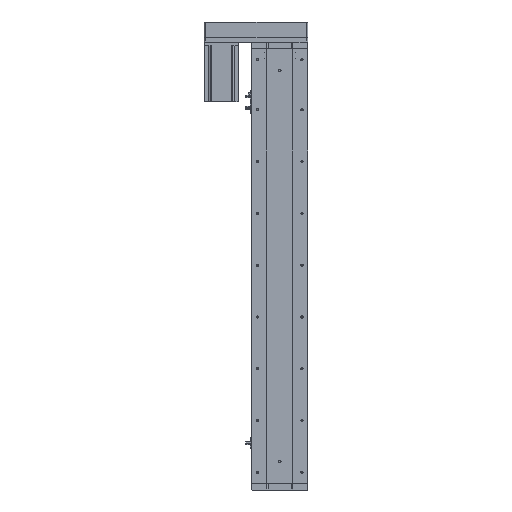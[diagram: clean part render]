
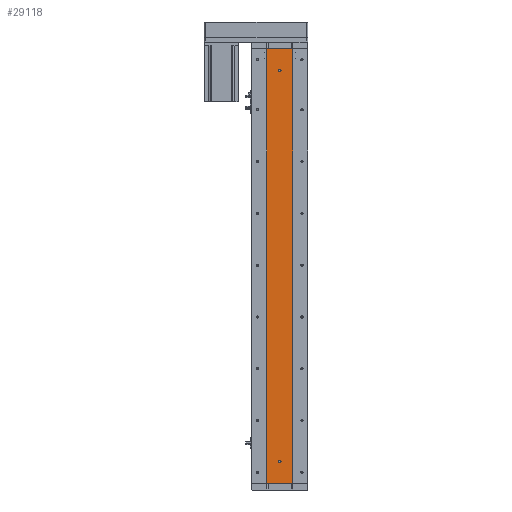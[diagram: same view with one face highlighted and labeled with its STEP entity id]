
A CAD part, left-side view. The second image highlights one B-rep face of the part: STEP entity #29118.
In plain terms, the highlighted planar face has unit normal (-1, 0, 0).
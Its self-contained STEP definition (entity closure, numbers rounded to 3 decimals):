
#404 = DIRECTION ( 'NONE',  ( 0., -1., 0. ) ) ;
#2755 = VERTEX_POINT ( 'NONE', #3119 ) ;
#3119 = CARTESIAN_POINT ( 'NONE',  ( -24.994, 0., 953. ) ) ;
#3352 = VECTOR ( 'NONE', #404, 1000. ) ;
#3635 = CARTESIAN_POINT ( 'NONE',  ( -24.994, 0., 50. ) ) ;
#4169 = ORIENTED_EDGE ( 'NONE', *, *, #36523, .F. ) ;
#5282 = AXIS2_PLACEMENT_3D ( 'NONE', #38225, #15793, #42010 ) ;
#5738 = DIRECTION ( 'NONE',  ( -1., 0., 0. ) ) ;
#5789 = DIRECTION ( 'NONE',  ( 1., 0., 0. ) ) ;
#5934 = AXIS2_PLACEMENT_3D ( 'NONE', #28254, #5789, #31983 ) ;
#6187 = FACE_BOUND ( 'NONE', #16800, .T. ) ;
#6830 = DIRECTION ( 'NONE',  ( -1., 0., 0. ) ) ;
#6953 = ORIENTED_EDGE ( 'NONE', *, *, #43738, .T. ) ;
#7369 = DIRECTION ( 'NONE',  ( 0., 0., 1. ) ) ;
#9122 = CARTESIAN_POINT ( 'NONE',  ( -24.994, 0., 53. ) ) ;
#9131 = EDGE_LOOP ( 'NONE', ( #29385, #26727 ) ) ;
#9774 = DIRECTION ( 'NONE',  ( 0., 0., -1. ) ) ;
#11641 = EDGE_CURVE ( 'NONE', #26842, #38246, #34783, .T. ) ;
#14396 = CARTESIAN_POINT ( 'NONE',  ( -24.994, 29.785, 0. ) ) ;
#15533 = ORIENTED_EDGE ( 'NONE', *, *, #29957, .F. ) ;
#15793 = DIRECTION ( 'NONE',  ( -1., 0., 0. ) ) ;
#16500 = VERTEX_POINT ( 'NONE', #40590 ) ;
#16800 = EDGE_LOOP ( 'NONE', ( #17199, #4169 ) ) ;
#17199 = ORIENTED_EDGE ( 'NONE', *, *, #11641, .F. ) ;
#17585 = CARTESIAN_POINT ( 'NONE',  ( -24.994, -29.785, 1006. ) ) ;
#17608 = DIRECTION ( 'NONE',  ( 0., 0., -1. ) ) ;
#19802 = AXIS2_PLACEMENT_3D ( 'NONE', #28191, #5738, #31923 ) ;
#20550 = CARTESIAN_POINT ( 'NONE',  ( -24.994, 29.785, 1006. ) ) ;
#20884 = CARTESIAN_POINT ( 'NONE',  ( -24.994, 0., 47. ) ) ;
#22826 = VERTEX_POINT ( 'NONE', #34342 ) ;
#22925 = AXIS2_PLACEMENT_3D ( 'NONE', #29288, #6830, #33027 ) ;
#24312 = PLANE ( 'NONE',  #5934 ) ;
#24938 = FACE_OUTER_BOUND ( 'NONE', #35175, .T. ) ;
#26478 = CARTESIAN_POINT ( 'NONE',  ( -24.994, 29.785, 0. ) ) ;
#26575 = CARTESIAN_POINT ( 'NONE',  ( -24.994, 29.785, 1006. ) ) ;
#26727 = ORIENTED_EDGE ( 'NONE', *, *, #37608, .F. ) ;
#26842 = VERTEX_POINT ( 'NONE', #9122 ) ;
#27100 = LINE ( 'NONE', #43888, #37028 ) ;
#28191 = CARTESIAN_POINT ( 'NONE',  ( -24.994, 0., 956. ) ) ;
#28254 = CARTESIAN_POINT ( 'NONE',  ( -24.994, 29.785, 1006. ) ) ;
#29118 = ADVANCED_FACE ( 'NONE', ( #44890, #6187, #24938 ), #24312, .F. ) ;
#29288 = CARTESIAN_POINT ( 'NONE',  ( -24.994, 0., 50. ) ) ;
#29385 = ORIENTED_EDGE ( 'NONE', *, *, #35064, .F. ) ;
#29717 = ORIENTED_EDGE ( 'NONE', *, *, #47452, .F. ) ;
#29816 = DIRECTION ( 'NONE',  ( -1., 0., 0. ) ) ;
#29957 = EDGE_CURVE ( 'NONE', #22826, #33029, #37146, .T. ) ;
#31923 = DIRECTION ( 'NONE',  ( 0., 0., 1. ) ) ;
#31983 = DIRECTION ( 'NONE',  ( 0., 0., -1. ) ) ;
#32870 = VERTEX_POINT ( 'NONE', #26478 ) ;
#33027 = DIRECTION ( 'NONE',  ( 0., 0., 1. ) ) ;
#33029 = VERTEX_POINT ( 'NONE', #42664 ) ;
#33235 = CIRCLE ( 'NONE', #5282, 3. ) ;
#34342 = CARTESIAN_POINT ( 'NONE',  ( -24.994, -29.785, 1006. ) ) ;
#34783 = CIRCLE ( 'NONE', #41276, 3. ) ;
#35064 = EDGE_CURVE ( 'NONE', #16500, #2755, #33235, .T. ) ;
#35175 = EDGE_LOOP ( 'NONE', ( #39984, #15533, #29717, #6953 ) ) ;
#35956 = VECTOR ( 'NONE', #9774, 1000. ) ;
#36523 = EDGE_CURVE ( 'NONE', #38246, #26842, #48328, .T. ) ;
#37028 = VECTOR ( 'NONE', #17608, 1000. ) ;
#37146 = LINE ( 'NONE', #17585, #35956 ) ;
#37608 = EDGE_CURVE ( 'NONE', #2755, #16500, #38690, .T. ) ;
#38005 = VECTOR ( 'NONE', #44549, 1000. ) ;
#38225 = CARTESIAN_POINT ( 'NONE',  ( -24.994, 0., 956. ) ) ;
#38246 = VERTEX_POINT ( 'NONE', #20884 ) ;
#38690 = CIRCLE ( 'NONE', #19802, 3. ) ;
#39984 = ORIENTED_EDGE ( 'NONE', *, *, #46231, .T. ) ;
#40590 = CARTESIAN_POINT ( 'NONE',  ( -24.994, 0., 959. ) ) ;
#41276 = AXIS2_PLACEMENT_3D ( 'NONE', #3635, #29816, #7369 ) ;
#42010 = DIRECTION ( 'NONE',  ( 0., 0., 1. ) ) ;
#42664 = CARTESIAN_POINT ( 'NONE',  ( -24.994, -29.785, 0. ) ) ;
#43194 = LINE ( 'NONE', #26575, #3352 ) ;
#43738 = EDGE_CURVE ( 'NONE', #46595, #32870, #27100, .T. ) ;
#43888 = CARTESIAN_POINT ( 'NONE',  ( -24.994, 29.785, 1006. ) ) ;
#44549 = DIRECTION ( 'NONE',  ( 0., -1., 0. ) ) ;
#44890 = FACE_BOUND ( 'NONE', #9131, .T. ) ;
#46231 = EDGE_CURVE ( 'NONE', #32870, #33029, #48027, .T. ) ;
#46595 = VERTEX_POINT ( 'NONE', #20550 ) ;
#47452 = EDGE_CURVE ( 'NONE', #46595, #22826, #43194, .T. ) ;
#48027 = LINE ( 'NONE', #14396, #38005 ) ;
#48328 = CIRCLE ( 'NONE', #22925, 3. ) ;
